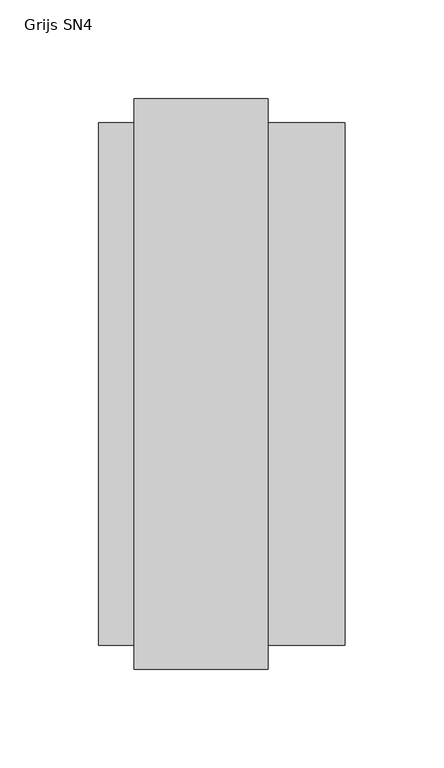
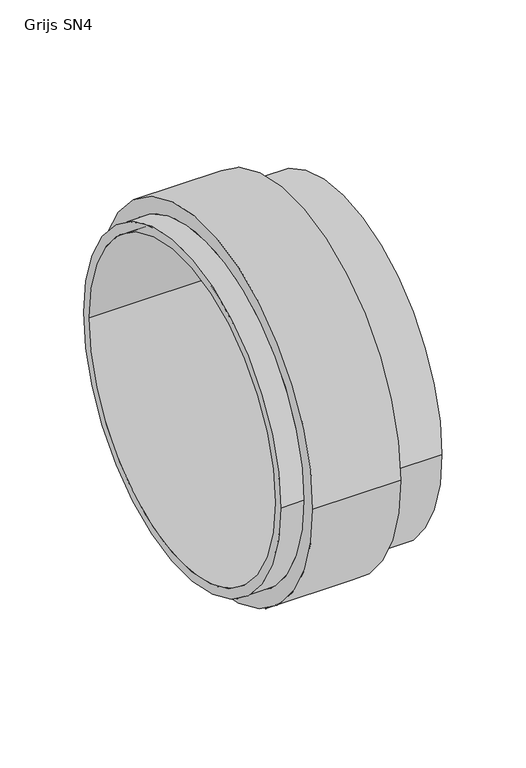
"""IFC4 building model written with IfcOpenShell, lengths in millimetres: pipe fitting geometry, NLRS_52_PIF_UN_SN4 SN8 buis mof_Dyka : Grijs SN4."""

from ifc_helpers import new_model, si_unit, frame, origin, place, context, project, spatial, polyline, circle_curve, source, transform, mapped, element, save
from ifc_brep_helpers import plane_surface, cylinder_surface, revolved_surface, advanced_brep


def grijs_sn4_2ca05187(model_context):
    return source(origin(), model_context, "Body", "AdvancedBrep", [
        advanced_brep(
        [(-125.0, -132.3, 0.0), (-125.0, 132.3, 0.0), (-125.0, -125.0, 0.0), (-125.0, 125.0, 0.0), (0.0, 125.0, 0.0), (0.0, -125.0, 0.0), (-39.0, -125.0, 0.0), (-107.0, -125.0, 0.0), (-107.0, 125.0, 0.0), (-39.0, 125.0, 0.0), (-107.0, 132.3, 0.0), (-107.0, -132.3, 0.0), (0.0, 132.3, 0.0), (0.0, -132.3, 0.0), (-39.0, -132.3, 0.0), (-39.0, 132.3, 0.0), (-39.0, -144.5, 0.0), (-39.0, 144.5, 0.0), (-107.0, -144.5, 0.0), (-107.0, 144.5, 0.0)],
        [
            (0, 1, circle_curve(frame((-125.0, 0.0, 0.0), z_axis=(-1.0, 0.0, 0.0), x_axis=(0.0, 1.0, 0.0)), 132.3)),
            (1, 0, circle_curve(frame((-125.0, 0.0, 0.0), z_axis=(-1.0, 0.0, 0.0), x_axis=(0.0, 1.0, 0.0)), 132.3)),
            (2, 3, circle_curve(frame((-125.0, 0.0, 0.0), z_axis=(1.0, 0.0, 0.0), x_axis=(0.0, 1.0, 0.0)), 125.0)),
            (3, 2, circle_curve(frame((-125.0, 0.0, 0.0), z_axis=(1.0, 0.0, 0.0), x_axis=(0.0, 1.0, 0.0)), 125.0)),
            (4, 5, circle_curve(frame((0.0, 0.0, 0.0), z_axis=(1.0, 0.0, 0.0), x_axis=(0.0, 1.0, 0.0)), 125.0)),
            (5, 6),
            (6, 7),
            (7, 2),
            (3, 8),
            (8, 9),
            (9, 4),
            (5, 4, circle_curve(frame((0.0, 0.0, 0.0), z_axis=(1.0, 0.0, 0.0), x_axis=(0.0, 1.0, 0.0)), 125.0)),
            (1, 10),
            (10, 11, circle_curve(frame((-107.0, 0.0, 0.0), z_axis=(-1.0, 0.0, 0.0), x_axis=(0.0, 1.0, 0.0)), 132.3)),
            (11, 0),
            (12, 13, circle_curve(frame((0.0, 0.0, 0.0), z_axis=(-1.0, 0.0, 0.0), x_axis=(0.0, 1.0, 0.0)), 132.3)),
            (13, 14),
            (14, 15, circle_curve(frame((-39.0, 0.0, 0.0), z_axis=(1.0, 0.0, 0.0), x_axis=(0.0, 1.0, 0.0)), 132.3)),
            (15, 12),
            (11, 10, circle_curve(frame((-107.0, 0.0, 0.0), z_axis=(-1.0, 0.0, 0.0), x_axis=(0.0, 1.0, 0.0)), 132.3)),
            (13, 12, circle_curve(frame((0.0, 0.0, 0.0), z_axis=(-1.0, 0.0, 0.0), x_axis=(0.0, 1.0, 0.0)), 132.3)),
            (15, 14, circle_curve(frame((-39.0, 0.0, 0.0), z_axis=(1.0, 0.0, 0.0), x_axis=(0.0, 1.0, 0.0)), 132.3)),
            (16, 17, circle_curve(frame((-39.0, 0.0, 0.0), z_axis=(1.0, 0.0, 0.0), x_axis=(0.0, 1.0, 0.0)), 144.5)),
            (17, 16, circle_curve(frame((-39.0, 0.0, 0.0), z_axis=(1.0, 0.0, 0.0), x_axis=(0.0, 1.0, 0.0)), 144.5)),
            (16, 18),
            (18, 19, circle_curve(frame((-107.0, 0.0, 0.0), z_axis=(1.0, 0.0, 0.0), x_axis=(0.0, 1.0, 0.0)), 144.5)),
            (19, 17),
            (19, 18, circle_curve(frame((-107.0, 0.0, 0.0), z_axis=(1.0, 0.0, 0.0), x_axis=(0.0, 1.0, 0.0)), 144.5)),
        ],
        [
            plane_surface(frame((-125.0, 125.0, 0.0), z_axis=(-1.0, 0.0, 0.0), x_axis=(0.0, 0.0, 1.0))),
            revolved_surface(polyline([(-125.0, 125.0, 0.0), (0.0, 125.0, 0.0)]), (-125.0, 0.0, 0.0), (-1.0, 0.0, 0.0)),
            cylinder_surface(frame((0.0, 0.0, 0.0), z_axis=(1.0, 0.0, 0.0), x_axis=(0.0, 1.0, 0.0)), 132.3),
            plane_surface(frame((-39.0, 125.0, 0.0), z_axis=(1.0, 0.0, 0.0), x_axis=(0.0, 0.0, -1.0))),
            cylinder_surface(frame((0.0, 0.0, 0.0), z_axis=(1.0, 0.0, 0.0), x_axis=(0.0, 1.0, 0.0)), 144.5),
            plane_surface(frame((0.0, 125.0, 0.0), z_axis=(1.0, 0.0, 0.0), x_axis=(0.0, 0.0, -1.0))),
            plane_surface(frame((-107.0, 125.0, 0.0), z_axis=(-1.0, 0.0, 0.0), x_axis=(0.0, 0.0, 1.0))),
        ],
        [
            (0, [[1, 2], [3, 4]]),
            (1, [[5, 6, 7, 8, -4, 9, 10, 11]]),
            (1, [[12, -11, -10, -9, -3, -8, -7, -6]]),
            (2, [[-2, 13, 14, 15]]),
            (2, [[16, 17, 18, 19]]),
            (2, [[-1, -15, 20, -13]]),
            (2, [[21, -19, 22, -17]]),
            (3, [[23, 24], [-18, -22]]),
            (4, [[-23, 25, 26, 27]]),
            (4, [[-24, -27, 28, -25]]),
            (5, [[-16, -21], [-5, -12]]),
            (6, [[-28, -26], [-14, -20]]),
        ],
    ),
    ])


if __name__ == "__main__":
    model = new_model("IFC4")
    model_context = context("Model", 3, world=origin())
    ifc_project = project(units=[si_unit("LENGTHUNIT", "METRE", prefix="MILLI")], contexts=[model_context])
    site = spatial("IfcSite", under=ifc_project)
    building = spatial("IfcBuilding", under=site)
    placement = place(None, origin())
    grijs_sn4_shape = grijs_sn4_2ca05187(model_context)
    element("IfcPipeFitting", 1, ObjectType="NLRS_52_PIF_UN_SN4 SN8 buis mof_Dyka : Grijs SN4", at=placement, inside=building, context=model_context, shape_type="MappedRepresentation", body=[
        mapped(grijs_sn4_shape, transform((0.0, 0.0, 0.0), x_axis=(1.0, 0.0, 0.0), y_axis=(0.0, 1.0, 0.0), z_axis=(0.0, 0.0, 1.0))),
    ])
    save(model, "model.ifc")
